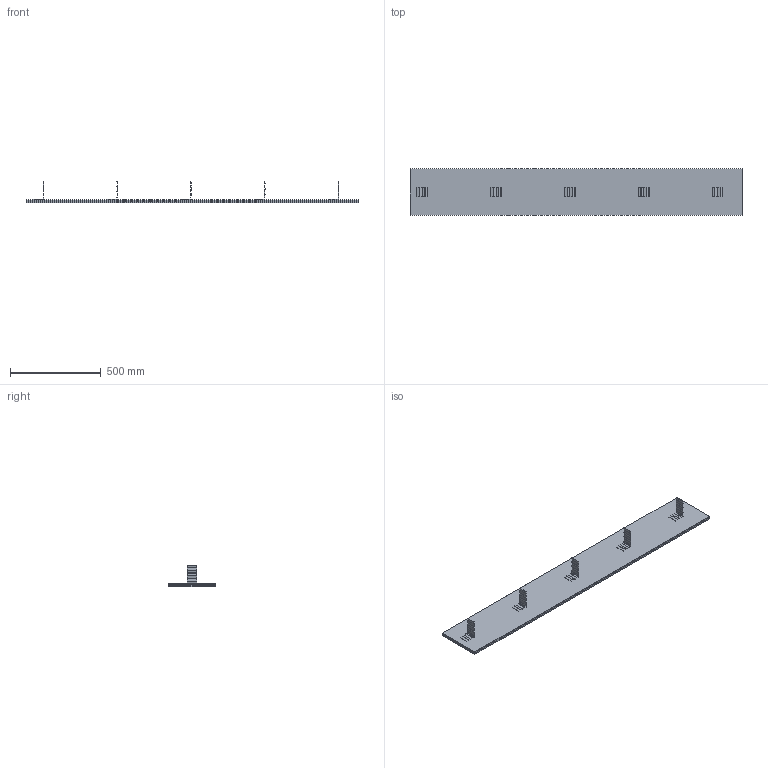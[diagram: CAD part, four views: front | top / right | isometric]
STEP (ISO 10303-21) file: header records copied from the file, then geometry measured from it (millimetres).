
FILE_DESCRIPTION(/* description */ (''),/* implementation_level */ '2;1');
FILE_NAME(/* name */ 'C:\001_Work\Designs\SWW\SWW 10 x 72.stp',/* time_stamp */ '2015-08-12T14:40:12-04:00',/* author */ ('rramoutar'),/* organization */ (''),/* preprocessor_version */ 'ST-DEVELOPER v15.6',/* originating_system */ 'Autodesk Inventor 2015',/* authorisation */ '');
FILE_SCHEMA (('AUTOMOTIVE_DESIGN { 1 0 10303 214 3 1 1 }'));
Length unit declared in the file: inch
Products named in the file (4): SWW 10 x 72 SHEET METAL (A-14177-1); SWW 10 x 72 WAFFLE PAD (A-14177-1); SWW 8 x 72 BRICK TIES (A-14177-1); SWW 10  x 72 WALL ISOLATOR (A-14177-1)
Assembly tree (8 placements, depth 2):
  SWW 10  x 72 WALL ISOLATOR (A-14177-1)
    SWW 10 x 72 SHEET METAL (A-14177-1)
    SWW 10 x 72 WAFFLE PAD (A-14177-1)  x2
    SWW 8 x 72 BRICK TIES (A-14177-1)  x5
Bounding box: 1828.8 x 254 x 121.11 mm (x, y, z)
Volume: 8135520.8 mm3; surface area: 2944588.2 mm2
Topology: 8 solids, 8 shells, 448 faces, 896 edges, 464 vertices
Faces by surface type: plane 348, cylinder 100
Entity records: 2555 total; most frequent: DIRECTION 456, CARTESIAN_POINT 410, ORIENTED_EDGE 392, EDGE_CURVE 196, LINE 156, VECTOR 156, AXIS2_PLACEMENT_3D 150, VERTEX_POINT 104
